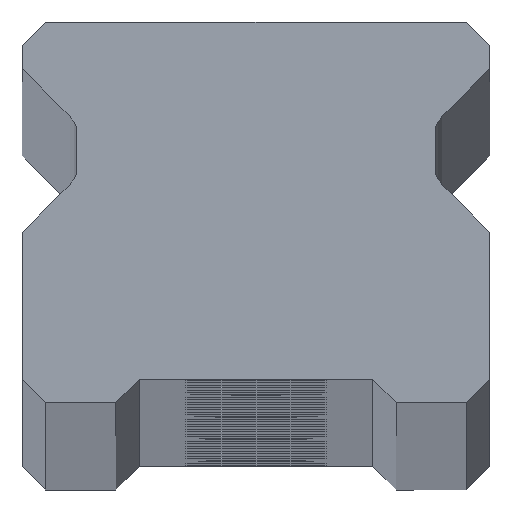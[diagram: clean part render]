
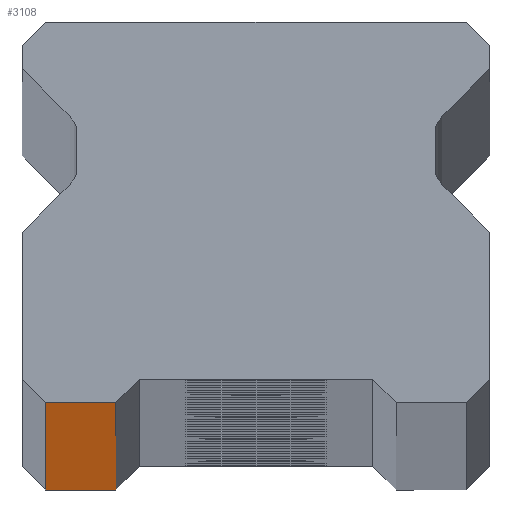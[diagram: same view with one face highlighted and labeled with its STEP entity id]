
A CAD part, top view. The second image highlights one B-rep face of the part: STEP entity #3108.
In plain terms, the highlighted planar face has unit normal (0, -1, 0).
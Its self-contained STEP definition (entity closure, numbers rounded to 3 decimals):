
#79 = DIRECTION ( 'NONE',  ( 0., 0., 1. ) ) ;
#83 = CARTESIAN_POINT ( 'NONE',  ( 10., 0., 1070. ) ) ;
#290 = ORIENTED_EDGE ( 'NONE', *, *, #3918, .T. ) ;
#454 = EDGE_LOOP ( 'NONE', ( #5426, #4477, #6445, #290 ) ) ;
#587 = DIRECTION ( 'NONE',  ( 1., 0., 0. ) ) ;
#855 = EDGE_CURVE ( 'NONE', #988, #3872, #3584, .T. ) ;
#919 = DIRECTION ( 'NONE',  ( 1., 0., 0. ) ) ;
#938 = PLANE ( 'NONE',  #3777 ) ;
#988 = VERTEX_POINT ( 'NONE', #4030 ) ;
#1511 = CARTESIAN_POINT ( 'NONE',  ( -9., 0., 1070. ) ) ;
#1569 = CARTESIAN_POINT ( 'NONE',  ( -9., 0., 1070. ) ) ;
#1629 = LINE ( 'NONE', #83, #6217 ) ;
#2082 = VECTOR ( 'NONE', #79, 1000. ) ;
#2453 = VERTEX_POINT ( 'NONE', #3327 ) ;
#2729 = FACE_OUTER_BOUND ( 'NONE', #454, .T. ) ;
#3102 = VECTOR ( 'NONE', #5403, 1000. ) ;
#3108 = ADVANCED_FACE ( 'NONE', ( #2729 ), #938, .F. ) ;
#3327 = CARTESIAN_POINT ( 'NONE',  ( -6., 0., 1070. ) ) ;
#3334 = LINE ( 'NONE', #1511, #3102 ) ;
#3336 = VECTOR ( 'NONE', #919, 1000. ) ;
#3419 = CARTESIAN_POINT ( 'NONE',  ( -6., 0., -1070. ) ) ;
#3529 = CARTESIAN_POINT ( 'NONE',  ( -6., 0., -1070. ) ) ;
#3584 = LINE ( 'NONE', #5992, #3336 ) ;
#3777 = AXIS2_PLACEMENT_3D ( 'NONE', #5853, #4918, #4827 ) ;
#3872 = VERTEX_POINT ( 'NONE', #3419 ) ;
#3918 = EDGE_CURVE ( 'NONE', #4260, #988, #3334, .T. ) ;
#4030 = CARTESIAN_POINT ( 'NONE',  ( -9., 0., -1070. ) ) ;
#4055 = EDGE_CURVE ( 'NONE', #4260, #2453, #1629, .T. ) ;
#4260 = VERTEX_POINT ( 'NONE', #1569 ) ;
#4477 = ORIENTED_EDGE ( 'NONE', *, *, #6431, .T. ) ;
#4827 = DIRECTION ( 'NONE',  ( -1., 0., 0. ) ) ;
#4918 = DIRECTION ( 'NONE',  ( 0., 1., 0. ) ) ;
#5403 = DIRECTION ( 'NONE',  ( 0., 0., -1. ) ) ;
#5426 = ORIENTED_EDGE ( 'NONE', *, *, #855, .T. ) ;
#5853 = CARTESIAN_POINT ( 'NONE',  ( 10., 0., 1070. ) ) ;
#5992 = CARTESIAN_POINT ( 'NONE',  ( 10., 0., -1070. ) ) ;
#6217 = VECTOR ( 'NONE', #587, 1000. ) ;
#6431 = EDGE_CURVE ( 'NONE', #3872, #2453, #6438, .T. ) ;
#6438 = LINE ( 'NONE', #3529, #2082 ) ;
#6445 = ORIENTED_EDGE ( 'NONE', *, *, #4055, .F. ) ;
